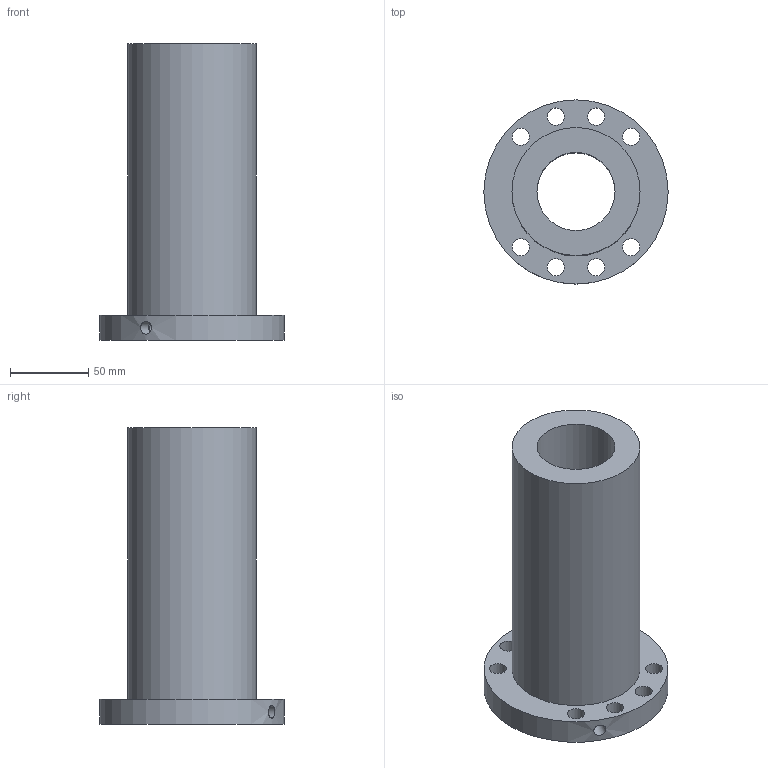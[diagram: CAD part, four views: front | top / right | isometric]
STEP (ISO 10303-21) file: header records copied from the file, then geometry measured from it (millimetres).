
FILE_DESCRIPTION(/* description */ (''),/* implementation_level */ '2;1');
FILE_NAME(/* name */ '50-30K2_7144',/* time_stamp */ '2007-10-15T12:53:54+08:00',/* author */ (''),/* organization */ (''),/* preprocessor_version */ 'ST-DEVELOPER v11',/* originating_system */ 'UGS - NX 5.0',/* authorisation */ '');
FILE_SCHEMA (('CONFIG_CONTROL_DESIGN'));
Length unit declared in the file: millimetre
Products named in the file (1): 50-30K2_7144
Bounding box: 118 x 118 x 190 mm (x, y, z)
Volume: 707462.6 mm3; surface area: 102095.4 mm2
Topology: 1 solids, 1 shells, 17 faces, 40 edges, 27 vertices
Faces by surface type: cylinder 13, plane 4
Full cylindrical faces by diameter (mm): 6 x1, 8 x1, 11 x8, 50 x1, 82 x1, 118 x1
Entity records: 668 total; most frequent: CARTESIAN_POINT 184, DIRECTION 84, FACE_BOUND 52, EDGE_LOOP 52, ORIENTED_EDGE 52, AXIS2_PLACEMENT_3D 42, VERTEX_POINT 26, EDGE_CURVE 26
